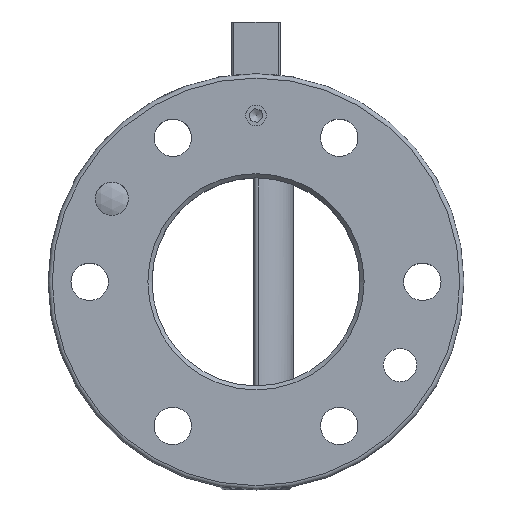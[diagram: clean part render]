
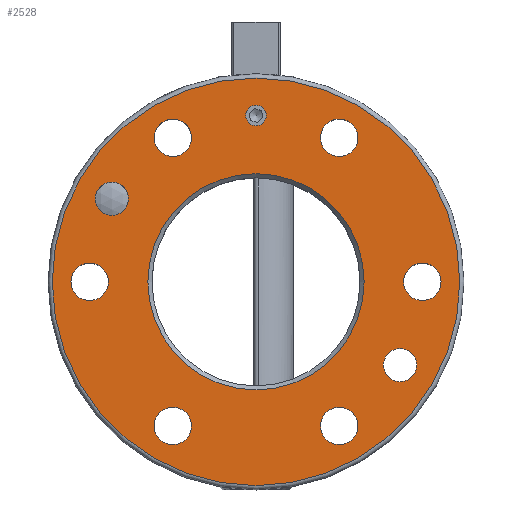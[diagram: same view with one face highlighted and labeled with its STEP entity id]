
A CAD part, top view. The second image highlights one B-rep face of the part: STEP entity #2528.
In plain terms, the highlighted planar face has unit normal (0, 0, 1).
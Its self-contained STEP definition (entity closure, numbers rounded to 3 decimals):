
#482=CARTESIAN_POINT('',(2.459,40.0,0.0));
#483=VERTEX_POINT('',#482);
#484=CARTESIAN_POINT('',(0.0,40.0,0.0));
#485=DIRECTION('',(0.0,0.0,-1.0));
#486=DIRECTION('',(1.0,0.0,0.0));
#487=AXIS2_PLACEMENT_3D('',#484,#485,#486);
#488=CIRCLE('',#487,2.459);
#489=EDGE_CURVE('',#483,#483,#488,.T.);
#2403=CARTESIAN_POINT('',(49.0,0.,0.0));
#2404=VERTEX_POINT('',#2403);
#2405=CARTESIAN_POINT('',(0.0,0.0,0.0));
#2406=DIRECTION('',(0.0,0.0,-1.0));
#2407=DIRECTION('',(-1.0,0.0,0.0));
#2408=AXIS2_PLACEMENT_3D('',#2405,#2406,#2407);
#2409=CIRCLE('',#2408,49.0);
#2410=EDGE_CURVE('',#2404,#2404,#2409,.T.);
#2418=CARTESIAN_POINT('',(0.0,0.0,0.0));
#2419=DIRECTION('',(0.0,0.0,-1.0));
#2420=DIRECTION('',(-1.0,0.0,0.0));
#2421=AXIS2_PLACEMENT_3D('',#2418,#2419,#2420);
#2422=PLANE('',#2421);
#2423=ORIENTED_EDGE('',*,*,#2410,.F.);
#2424=EDGE_LOOP('',(#2423));
#2425=FACE_OUTER_BOUND('',#2424,.T.);
#2426=CARTESIAN_POINT('',(26.0,0.,0.0));
#2427=VERTEX_POINT('',#2426);
#2428=CARTESIAN_POINT('',(0.0,0.0,0.0));
#2429=DIRECTION('',(0.0,0.0,1.0));
#2430=DIRECTION('',(-1.0,0.0,0.0));
#2431=AXIS2_PLACEMENT_3D('',#2428,#2429,#2430);
#2432=CIRCLE('',#2431,26.0);
#2433=EDGE_CURVE('',#2427,#2427,#2432,.T.);
#2434=ORIENTED_EDGE('',*,*,#2433,.F.);
#2435=EDGE_LOOP('',(#2434));
#2436=FACE_BOUND('',#2435,.T.);
#2437=CARTESIAN_POINT('',(-30.641,20.,0.0));
#2438=VERTEX_POINT('',#2437);
#2439=CARTESIAN_POINT('',(-34.641,20.,0.0));
#2440=DIRECTION('',(0.0,0.0,-1.0));
#2441=DIRECTION('',(1.0,0.0,0.0));
#2442=AXIS2_PLACEMENT_3D('',#2439,#2440,#2441);
#2443=CIRCLE('',#2442,4.0);
#2444=EDGE_CURVE('',#2438,#2438,#2443,.T.);
#2445=ORIENTED_EDGE('',*,*,#2444,.T.);
#2446=EDGE_LOOP('',(#2445));
#2447=FACE_BOUND('',#2446,.T.);
#2448=CARTESIAN_POINT('',(38.641,-20.,0.0));
#2449=VERTEX_POINT('',#2448);
#2450=CARTESIAN_POINT('',(34.641,-20.,0.0));
#2451=DIRECTION('',(0.0,0.0,-1.0));
#2452=DIRECTION('',(1.0,0.0,0.0));
#2453=AXIS2_PLACEMENT_3D('',#2450,#2451,#2452);
#2454=CIRCLE('',#2453,4.0);
#2455=EDGE_CURVE('',#2449,#2449,#2454,.T.);
#2456=ORIENTED_EDGE('',*,*,#2455,.T.);
#2457=EDGE_LOOP('',(#2456));
#2458=FACE_BOUND('',#2457,.T.);
#2459=ORIENTED_EDGE('',*,*,#489,.T.);
#2460=EDGE_LOOP('',(#2459));
#2461=FACE_BOUND('',#2460,.T.);
#2462=CARTESIAN_POINT('',(24.5,-34.641,0.0));
#2463=VERTEX_POINT('',#2462);
#2464=CARTESIAN_POINT('',(20.,-34.641,0.0));
#2465=DIRECTION('',(0.0,0.0,-1.0));
#2466=DIRECTION('',(-1.0,0.0,0.0));
#2467=AXIS2_PLACEMENT_3D('',#2464,#2465,#2466);
#2468=CIRCLE('',#2467,4.5);
#2469=EDGE_CURVE('',#2463,#2463,#2468,.T.);
#2470=ORIENTED_EDGE('',*,*,#2469,.T.);
#2471=EDGE_LOOP('',(#2470));
#2472=FACE_BOUND('',#2471,.T.);
#2473=CARTESIAN_POINT('',(-15.5,-34.641,0.0));
#2474=VERTEX_POINT('',#2473);
#2475=CARTESIAN_POINT('',(-20.,-34.641,0.0));
#2476=DIRECTION('',(0.0,0.0,-1.0));
#2477=DIRECTION('',(-1.0,0.0,0.0));
#2478=AXIS2_PLACEMENT_3D('',#2475,#2476,#2477);
#2479=CIRCLE('',#2478,4.5);
#2480=EDGE_CURVE('',#2474,#2474,#2479,.T.);
#2481=ORIENTED_EDGE('',*,*,#2480,.T.);
#2482=EDGE_LOOP('',(#2481));
#2483=FACE_BOUND('',#2482,.T.);
#2484=CARTESIAN_POINT('',(-35.5,0.,0.0));
#2485=VERTEX_POINT('',#2484);
#2486=CARTESIAN_POINT('',(-40.,0.,0.0));
#2487=DIRECTION('',(0.0,0.0,-1.0));
#2488=DIRECTION('',(-1.0,0.0,0.0));
#2489=AXIS2_PLACEMENT_3D('',#2486,#2487,#2488);
#2490=CIRCLE('',#2489,4.5);
#2491=EDGE_CURVE('',#2485,#2485,#2490,.T.);
#2492=ORIENTED_EDGE('',*,*,#2491,.T.);
#2493=EDGE_LOOP('',(#2492));
#2494=FACE_BOUND('',#2493,.T.);
#2495=CARTESIAN_POINT('',(-15.5,34.641,0.0));
#2496=VERTEX_POINT('',#2495);
#2497=CARTESIAN_POINT('',(-20.,34.641,0.0));
#2498=DIRECTION('',(0.0,0.0,-1.0));
#2499=DIRECTION('',(-1.0,0.0,0.0));
#2500=AXIS2_PLACEMENT_3D('',#2497,#2498,#2499);
#2501=CIRCLE('',#2500,4.5);
#2502=EDGE_CURVE('',#2496,#2496,#2501,.T.);
#2503=ORIENTED_EDGE('',*,*,#2502,.T.);
#2504=EDGE_LOOP('',(#2503));
#2505=FACE_BOUND('',#2504,.T.);
#2506=CARTESIAN_POINT('',(24.5,34.641,0.0));
#2507=VERTEX_POINT('',#2506);
#2508=CARTESIAN_POINT('',(20.,34.641,0.0));
#2509=DIRECTION('',(0.0,0.0,-1.0));
#2510=DIRECTION('',(-1.0,0.0,0.0));
#2511=AXIS2_PLACEMENT_3D('',#2508,#2509,#2510);
#2512=CIRCLE('',#2511,4.5);
#2513=EDGE_CURVE('',#2507,#2507,#2512,.T.);
#2514=ORIENTED_EDGE('',*,*,#2513,.T.);
#2515=EDGE_LOOP('',(#2514));
#2516=FACE_BOUND('',#2515,.T.);
#2517=CARTESIAN_POINT('',(44.5,0.,0.0));
#2518=VERTEX_POINT('',#2517);
#2519=CARTESIAN_POINT('',(40.,0.,0.0));
#2520=DIRECTION('',(0.0,0.0,-1.0));
#2521=DIRECTION('',(-1.0,0.0,0.0));
#2522=AXIS2_PLACEMENT_3D('',#2519,#2520,#2521);
#2523=CIRCLE('',#2522,4.5);
#2524=EDGE_CURVE('',#2518,#2518,#2523,.T.);
#2525=ORIENTED_EDGE('',*,*,#2524,.T.);
#2526=EDGE_LOOP('',(#2525));
#2527=FACE_BOUND('',#2526,.T.);
#2528=ADVANCED_FACE('',(#2425,#2436,#2447,#2458,#2461,#2472,#2483,#2494,#2505,#2516,#2527),#2422,.F.);
